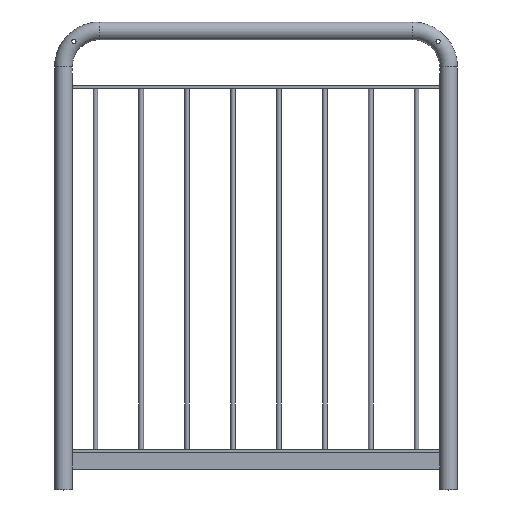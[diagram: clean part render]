
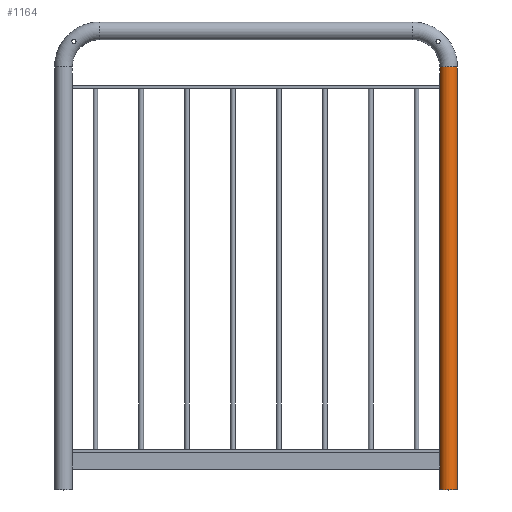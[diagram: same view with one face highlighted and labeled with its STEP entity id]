
A CAD part, top view. The second image highlights one B-rep face of the part: STEP entity #1164.
In plain terms, the highlighted cylindrical face has radius 21.2 mm (diameter 42.4 mm), a full revolution.
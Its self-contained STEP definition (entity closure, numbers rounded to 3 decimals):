
#288=CARTESIAN_POINT('',(902.526,1001.2,5.5));
#289=VERTEX_POINT('',#288);
#290=CARTESIAN_POINT('',(902.526,1001.2,5.5));
#291=CARTESIAN_POINT('',(902.526,1000.506,5.5));
#292=CARTESIAN_POINT('',(902.487,999.768,5.361));
#293=CARTESIAN_POINT('',(902.348,998.414,4.798));
#294=CARTESIAN_POINT('',(902.251,997.797,4.376));
#295=CARTESIAN_POINT('',(902.069,996.824,3.403));
#296=CARTESIAN_POINT('',(901.973,996.402,2.786));
#297=CARTESIAN_POINT('',(901.837,995.839,1.432));
#298=CARTESIAN_POINT('',(901.8,995.7,0.694));
#299=CARTESIAN_POINT('',(901.8,995.7,-0.694));
#300=CARTESIAN_POINT('',(901.837,995.839,-1.432));
#301=CARTESIAN_POINT('',(901.973,996.402,-2.786));
#302=CARTESIAN_POINT('',(902.069,996.824,-3.403));
#303=CARTESIAN_POINT('',(902.251,997.797,-4.376));
#304=CARTESIAN_POINT('',(902.348,998.414,-4.798));
#305=CARTESIAN_POINT('',(902.487,999.768,-5.361));
#306=CARTESIAN_POINT('',(902.526,1000.506,-5.5));
#307=CARTESIAN_POINT('',(902.526,1001.894,-5.5));
#308=CARTESIAN_POINT('',(902.487,1002.632,-5.361));
#309=CARTESIAN_POINT('',(902.348,1003.986,-4.798));
#310=CARTESIAN_POINT('',(902.251,1004.603,-4.376));
#311=CARTESIAN_POINT('',(902.069,1005.576,-3.403));
#312=CARTESIAN_POINT('',(901.973,1005.998,-2.786));
#313=CARTESIAN_POINT('',(901.837,1006.561,-1.432));
#314=CARTESIAN_POINT('',(901.8,1006.7,-0.694));
#315=CARTESIAN_POINT('',(901.8,1006.7,0.694));
#316=CARTESIAN_POINT('',(901.837,1006.561,1.432));
#317=CARTESIAN_POINT('',(901.973,1005.998,2.786));
#318=CARTESIAN_POINT('',(902.069,1005.576,3.403));
#319=CARTESIAN_POINT('',(902.251,1004.603,4.376));
#320=CARTESIAN_POINT('',(902.348,1003.986,4.798));
#321=CARTESIAN_POINT('',(902.487,1002.632,5.361));
#322=CARTESIAN_POINT('',(902.526,1001.894,5.5));
#323=CARTESIAN_POINT('',(902.526,1001.2,5.5));
#324=B_SPLINE_CURVE_WITH_KNOTS('',3,(#290,#291,#292,#293,#294,#295,#296,#297,#298,#299,#300,#301,#302,#303,#304,#305,#306,#307,#308,#309,#310,#311,#312,#313,#314,#315,#316,#317,#318,#319,#320,#321,#322,#323),.UNSPECIFIED.,.T.,.U.,(4,2,2,2,2,2,2,2,2,2,2,2,2,2,2,2,4),(0.0,0.208,0.416,0.625,0.833,1.041,1.249,1.457,1.666,1.874,2.082,2.29,2.498,2.707,2.915,3.123,3.331),.UNSPECIFIED.);
#325=EDGE_CURVE('',#289,#289,#324,.T.);
#417=CARTESIAN_POINT('',(943.474,1001.2,5.5));
#418=VERTEX_POINT('',#417);
#419=CARTESIAN_POINT('',(943.474,1001.2,5.5));
#420=CARTESIAN_POINT('',(943.474,1001.894,5.5));
#421=CARTESIAN_POINT('',(943.513,1002.632,5.361));
#422=CARTESIAN_POINT('',(943.652,1003.986,4.798));
#423=CARTESIAN_POINT('',(943.749,1004.603,4.376));
#424=CARTESIAN_POINT('',(943.931,1005.576,3.403));
#425=CARTESIAN_POINT('',(944.027,1005.998,2.786));
#426=CARTESIAN_POINT('',(944.163,1006.561,1.432));
#427=CARTESIAN_POINT('',(944.2,1006.7,0.694));
#428=CARTESIAN_POINT('',(944.2,1006.7,-0.694));
#429=CARTESIAN_POINT('',(944.163,1006.561,-1.432));
#430=CARTESIAN_POINT('',(944.027,1005.998,-2.786));
#431=CARTESIAN_POINT('',(943.931,1005.576,-3.403));
#432=CARTESIAN_POINT('',(943.749,1004.603,-4.376));
#433=CARTESIAN_POINT('',(943.652,1003.986,-4.798));
#434=CARTESIAN_POINT('',(943.513,1002.632,-5.361));
#435=CARTESIAN_POINT('',(943.474,1001.894,-5.5));
#436=CARTESIAN_POINT('',(943.474,1000.506,-5.5));
#437=CARTESIAN_POINT('',(943.513,999.768,-5.361));
#438=CARTESIAN_POINT('',(943.652,998.414,-4.798));
#439=CARTESIAN_POINT('',(943.749,997.797,-4.376));
#440=CARTESIAN_POINT('',(943.931,996.824,-3.403));
#441=CARTESIAN_POINT('',(944.027,996.402,-2.786));
#442=CARTESIAN_POINT('',(944.163,995.839,-1.432));
#443=CARTESIAN_POINT('',(944.2,995.7,-0.694));
#444=CARTESIAN_POINT('',(944.2,995.7,0.694));
#445=CARTESIAN_POINT('',(944.163,995.839,1.432));
#446=CARTESIAN_POINT('',(944.027,996.402,2.786));
#447=CARTESIAN_POINT('',(943.931,996.824,3.403));
#448=CARTESIAN_POINT('',(943.749,997.797,4.376));
#449=CARTESIAN_POINT('',(943.652,998.414,4.798));
#450=CARTESIAN_POINT('',(943.513,999.768,5.361));
#451=CARTESIAN_POINT('',(943.474,1000.506,5.5));
#452=CARTESIAN_POINT('',(943.474,1001.2,5.5));
#453=B_SPLINE_CURVE_WITH_KNOTS('',3,(#419,#420,#421,#422,#423,#424,#425,#426,#427,#428,#429,#430,#431,#432,#433,#434,#435,#436,#437,#438,#439,#440,#441,#442,#443,#444,#445,#446,#447,#448,#449,#450,#451,#452),.UNSPECIFIED.,.T.,.U.,(4,2,2,2,2,2,2,2,2,2,2,2,2,2,2,2,4),(0.0,0.208,0.416,0.625,0.833,1.041,1.249,1.457,1.666,1.874,2.082,2.29,2.498,2.707,2.915,3.123,3.331),.UNSPECIFIED.);
#454=EDGE_CURVE('',#418,#418,#453,.T.);
#1131=CARTESIAN_POINT('',(923.,1013.5,0.0));
#1132=DIRECTION('',(0.,-1.0,0.0));
#1133=DIRECTION('',(-1.0,0.0,0.0));
#1134=AXIS2_PLACEMENT_3D('',#1131,#1132,#1133);
#1135=CYLINDRICAL_SURFACE('',#1134,21.2);
#1136=CARTESIAN_POINT('',(944.2,0.0,0.));
#1137=VERTEX_POINT('',#1136);
#1138=CARTESIAN_POINT('',(923.0,0.0,0.0));
#1139=DIRECTION('',(0.0,1.0,0.0));
#1140=DIRECTION('',(-1.0,0.0,0.0));
#1141=AXIS2_PLACEMENT_3D('',#1138,#1139,#1140);
#1142=CIRCLE('',#1141,21.2);
#1143=EDGE_CURVE('',#1137,#1137,#1142,.T.);
#1144=ORIENTED_EDGE('',*,*,#1143,.T.);
#1145=EDGE_LOOP('',(#1144));
#1146=FACE_OUTER_BOUND('',#1145,.T.);
#1147=ORIENTED_EDGE('',*,*,#454,.T.);
#1148=EDGE_LOOP('',(#1147));
#1149=FACE_BOUND('',#1148,.T.);
#1150=ORIENTED_EDGE('',*,*,#325,.T.);
#1151=EDGE_LOOP('',(#1150));
#1152=FACE_BOUND('',#1151,.T.);
#1153=CARTESIAN_POINT('',(944.2,1013.5,0.));
#1154=VERTEX_POINT('',#1153);
#1155=CARTESIAN_POINT('',(923.,1013.5,0.0));
#1156=DIRECTION('',(0.0,1.0,0.0));
#1157=DIRECTION('',(-1.0,0.0,0.0));
#1158=AXIS2_PLACEMENT_3D('',#1155,#1156,#1157);
#1159=CIRCLE('',#1158,21.2);
#1160=EDGE_CURVE('',#1154,#1154,#1159,.T.);
#1161=ORIENTED_EDGE('',*,*,#1160,.F.);
#1162=EDGE_LOOP('',(#1161));
#1163=FACE_BOUND('',#1162,.T.);
#1164=ADVANCED_FACE('',(#1146,#1149,#1152,#1163),#1135,.T.);
